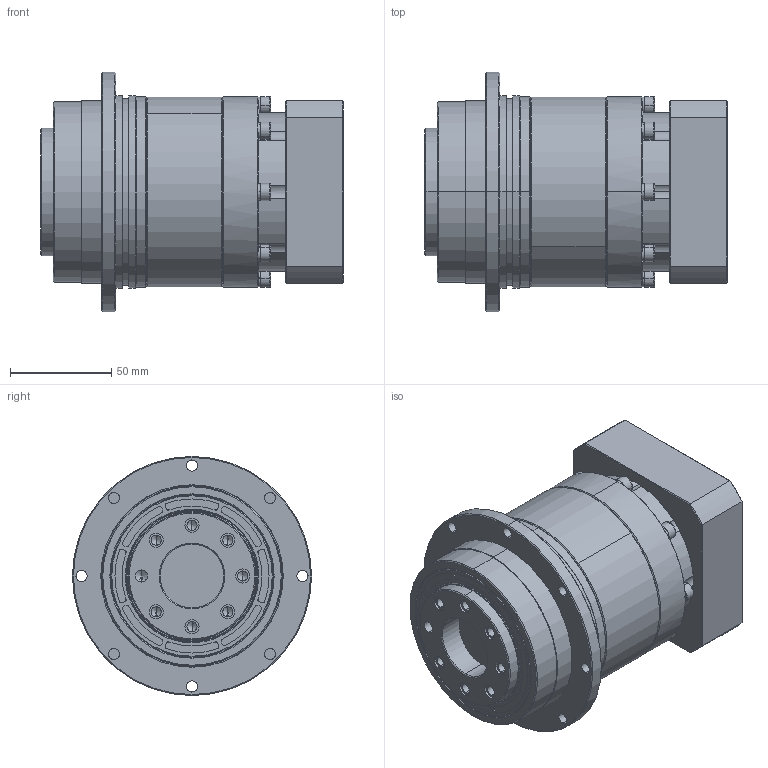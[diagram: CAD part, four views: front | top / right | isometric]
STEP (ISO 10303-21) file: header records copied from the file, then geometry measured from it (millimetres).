
FILE_DESCRIPTION (( 'STEP AP214' ), '1' );
FILE_NAME ('VRT-090-L2-P1 19-70-90-M6.STEP', '2025-03-01T07:07:09', ( '微软用户' ), ( '微软中国' ), 'SwSTEP 2.0', 'SolidWorks 2021', '' );
FILE_SCHEMA (( 'AUTOMOTIVE_DESIGN' ));
Length unit declared in the file: millimetre
Products named in the file (14): VRT-090一级整体太阳轮D19外形图; 標杶VRT-090 D19; 萇儂楊擘VRT-090 D70-M5-90F90H28.5; hexagon socket head cap screws gb_GB_FASTENER_SCREWS_HSHCS M6X20-N; spring lock washers--normal type gb_GB_FASTENER_WASHER_SW 5; VRT-090-L2-P1 19-70-90-M6; 一级输出轴VRT-090外形图; hexagon socket head cap screws gb_GB_FASTENER_SCREWS_HSHCS M5X30-N; 一级齿圈VRT-090外形图; 二级齿圈VRT-090 外形图; hex socket set screws with flat point gb_GB_FASTENER_SCREWS_HSFP M12X12-N; 蚐猾65x80x7; 笢潔楊擘VRT-090; hexagon socket head cap screws gb_GB_FASTENER_SCREWS_HSHCS M5X20-N
Assembly tree (38 placements, depth 2):
  VRT-090-L2-P1 19-70-90-M6
    一级齿圈VRT-090外形图
    一级输出轴VRT-090外形图
    笢潔楊擘VRT-090
    VRT-090一级整体太阳轮D19外形图
    標杶VRT-090 D19
    萇儂楊擘VRT-090 D70-M5-90F90H28.5
    蚐猾65x80x7
    spring lock washers--normal type gb_GB_FASTENER_WASHER_SW 5  x14
    hexagon socket head cap screws gb_GB_FASTENER_SCREWS_HSHCS M5X30-N  x8
    hexagon socket head cap screws gb_GB_FASTENER_SCREWS_HSHCS M6X20-N
    hexagon socket head cap screws gb_GB_FASTENER_SCREWS_HSHCS M5X20-N  x6
    hex socket set screws with flat point gb_GB_FASTENER_SCREWS_HSFP M12X12-N
    二级齿圈VRT-090 外形图
Bounding box: 149 x 118 x 118 mm (x, y, z)
Volume: 814130.3 mm3; surface area: 179751.7 mm2
Topology: 38 solids, 38 shells, 1185 faces, 2884 edges, 1784 vertices
Faces by surface type: cylinder 469, plane 457, cone 219, torus 40
Entity records: 33287 total; most frequent: CARTESIAN_POINT 5819, DIRECTION 4256, ORIENTED_EDGE 3672, EDGE_CURVE 1836, AXIS2_PLACEMENT_3D 1741, VERTEX_POINT 1180, CIRCLE 945, EDGE_LOOP 904
